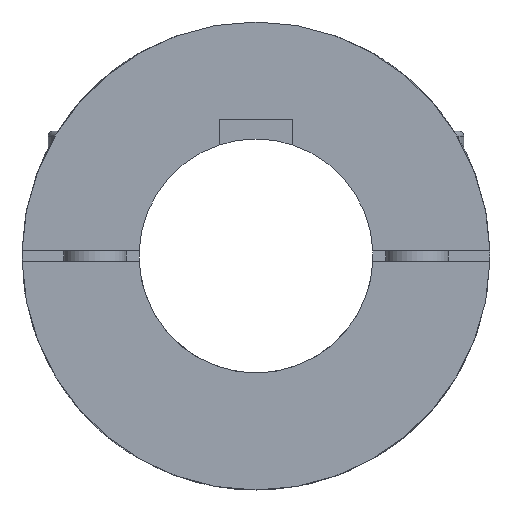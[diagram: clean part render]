
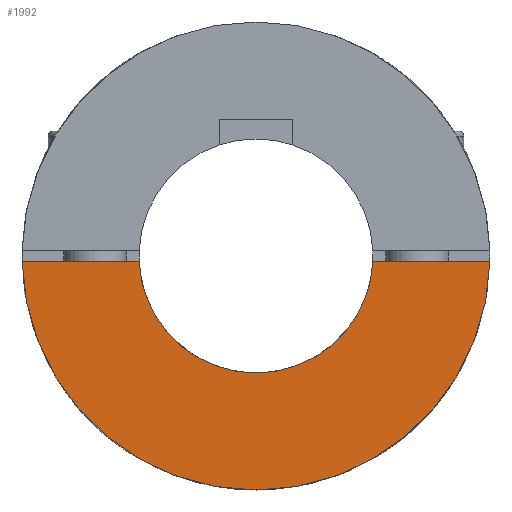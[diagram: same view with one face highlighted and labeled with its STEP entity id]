
A CAD part, left-side view. The second image highlights one B-rep face of the part: STEP entity #1992.
In plain terms, the highlighted planar face has unit normal (-1, 0, 0).
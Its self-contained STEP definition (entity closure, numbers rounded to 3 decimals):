
#64=PLANE('',#2254);
#196=LINE('',#3594,#339);
#208=LINE('',#3621,#351);
#339=VECTOR('',#2676,34.034);
#351=VECTOR('',#2708,34.034);
#540=FACE_OUTER_BOUND('',#682,.T.);
#682=EDGE_LOOP('',(#1761,#1762,#1763,#1764));
#845=CIRCLE('',#2199,22.5);
#850=CIRCLE('',#2255,45.);
#979=VERTEX_POINT('',#3549);
#980=VERTEX_POINT('',#3550);
#992=VERTEX_POINT('',#3592);
#997=VERTEX_POINT('',#3620);
#1211=EDGE_CURVE('',#979,#980,#845,.T.);
#1233=EDGE_CURVE('',#992,#980,#196,.T.);
#1247=EDGE_CURVE('',#997,#979,#208,.T.);
#1290=EDGE_CURVE('',#992,#997,#850,.T.);
#1761=ORIENTED_EDGE('',*,*,#1211,.T.);
#1762=ORIENTED_EDGE('',*,*,#1233,.F.);
#1763=ORIENTED_EDGE('',*,*,#1290,.T.);
#1764=ORIENTED_EDGE('',*,*,#1247,.T.);
#1992=ADVANCED_FACE('',(#540),#64,.T.);
#2199=AXIS2_PLACEMENT_3D('',#3551,#2634,#2635);
#2254=AXIS2_PLACEMENT_3D('',#3722,#2818,#2819);
#2255=AXIS2_PLACEMENT_3D('',#3723,#2820,#2821);
#2634=DIRECTION('center_axis',(1.,0.,0.));
#2635=DIRECTION('ref_axis',(0.,0.,1.));
#2676=DIRECTION('',(0.,-1.,0.));
#2708=DIRECTION('',(0.,1.,0.));
#2818=DIRECTION('center_axis',(-1.,0.,0.));
#2819=DIRECTION('ref_axis',(0.,-1.,0.));
#2820=DIRECTION('center_axis',(-1.,0.,0.));
#2821=DIRECTION('ref_axis',(0.,1.,0.));
#3549=CARTESIAN_POINT('',(0.,-22.478,-1.));
#3550=CARTESIAN_POINT('',(0.,22.478,-1.));
#3551=CARTESIAN_POINT('Origin',(0.,0.,0.));
#3592=CARTESIAN_POINT('',(0.,44.989,-1.));
#3594=CARTESIAN_POINT('',(0.,44.989,-1.));
#3620=CARTESIAN_POINT('',(0.,-44.989,-1.));
#3621=CARTESIAN_POINT('',(0.,-44.989,-1.));
#3722=CARTESIAN_POINT('Origin',(0.,0.,-11.));
#3723=CARTESIAN_POINT('Origin',(0.,0.,0.));
